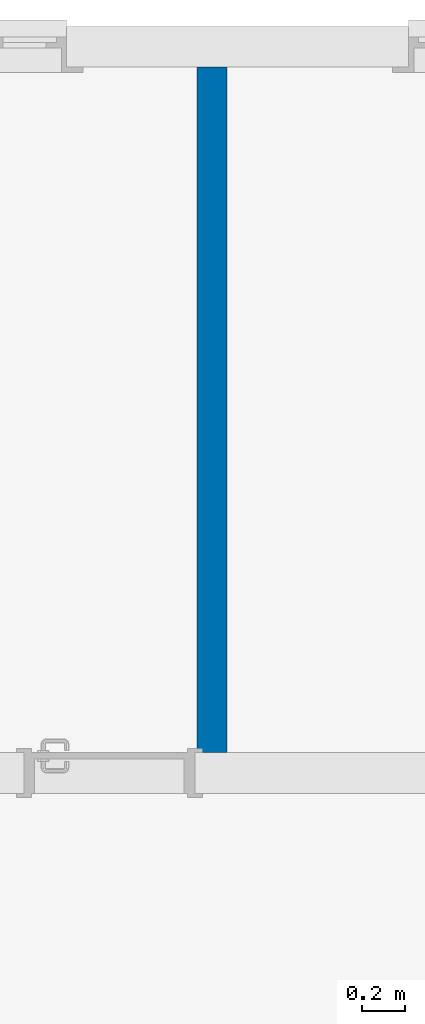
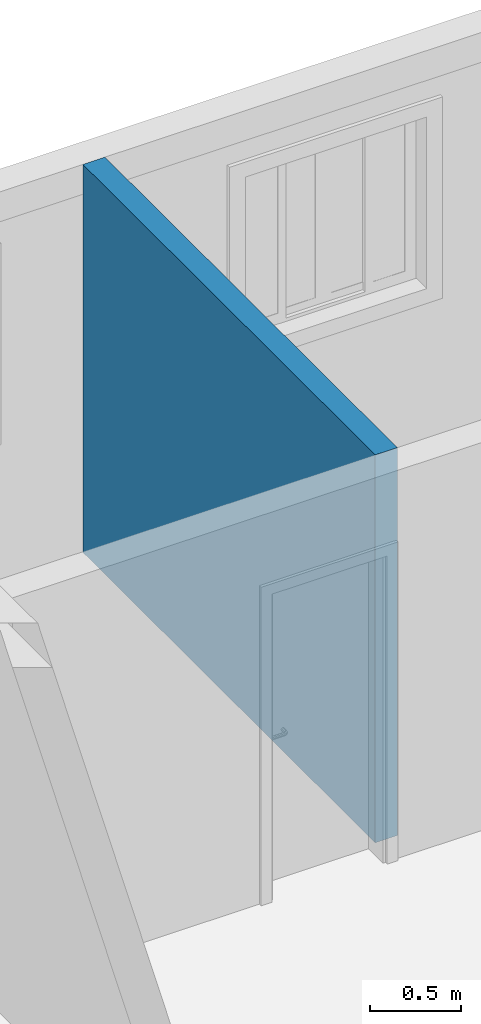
# One storey, part 40 of 47: 1 wall.
"""IFC2X3 building model written with IfcOpenShell, lengths in millimetres."""

from ifc_helpers import new_model, entity, si_unit, converted_unit, derived_unit, money_unit, direction, frame, origin_with_axes, place, context, subcontext, project, spatial, polyline, outline, extrude, material, layer, layer_set, layer_usage, type_object, element, save


model = new_model("IFC2X3")

# Units and contexts
model_context = context("Model", 3, precision=0.01, world=origin_with_axes(), true_north=direction((0.0, 1.0)))
body_context = subcontext(model_context, "Body", "Model", "MODEL_VIEW")
ifc_project = project(units=[si_unit("LENGTHUNIT", "METRE", prefix="MILLI"), si_unit("AREAUNIT", "SQUARE_METRE"), si_unit("VOLUMEUNIT", "CUBIC_METRE"), converted_unit("PLANEANGLEUNIT", "DEGREE", entity("IfcPlaneAngleMeasure", 0.0174532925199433), si_unit("PLANEANGLEUNIT", "RADIAN"), dimensions=[0, 0, 0, 0, 0, 0, 0]), money_unit("USD"), converted_unit("TIMEUNIT", "Year", entity("IfcTimeMeasure", 31557600.0), si_unit("TIMEUNIT", "SECOND"), dimensions=[0, 0, 1, 0, 0, 0, 0]), si_unit("MASSUNIT", "GRAM", prefix="KILO"), si_unit("THERMODYNAMICTEMPERATUREUNIT", "DEGREE_CELSIUS"), si_unit("LUMINOUSINTENSITYUNIT", "LUMEN"), si_unit("ENERGYUNIT", "JOULE", prefix="MEGA"), derived_unit("THERMALCONDUCTANCEUNIT", [(si_unit("POWERUNIT", "WATT"), 1), (si_unit("LENGTHUNIT", "METRE"), -1), (si_unit("THERMODYNAMICTEMPERATUREUNIT", "KELVIN"), -1)]), derived_unit("SPECIFICHEATCAPACITYUNIT", [(si_unit("ENERGYUNIT", "JOULE"), 1), (si_unit("MASSUNIT", "GRAM", prefix="KILO"), -1), (si_unit("THERMODYNAMICTEMPERATUREUNIT", "KELVIN"), -1)]), derived_unit("MASSDENSITYUNIT", [(si_unit("MASSUNIT", "GRAM", prefix="KILO"), 1), (si_unit("VOLUMEUNIT", "CUBIC_METRE"), -1)])], contexts=[model_context])

# Site, building, storey
site_placement = place(None, origin_with_axes())
site = spatial("IfcSite", under=ifc_project, at=site_placement, Name="Local", CompositionType="ELEMENT")
building_placement = place(site_placement, origin_with_axes())
building = spatial("IfcBuilding", under=site, at=building_placement, Name="Construção", CompositionType="ELEMENT")
storey_placement = place(building_placement, origin_with_axes())
storey = spatial("IfcBuildingStorey", under=building, at=storey_placement, Name="Pavimento Tipo", CompositionType="ELEMENT", Elevation=0.0)

# Wall
ifc_material = material(Name="Concreto")
ifc_layer = layer(ifc_material, 140.0, ventilated="UNKNOWN")
ifc_layer_set = layer_set([ifc_layer], Name="Concreto 140")
ifc_layer_usage = layer_usage(ifc_layer_set, "AXIS2", "NEGATIVE", 0.0)
wall_type = type_object("IfcWallType", Name="Concreto 140", PredefinedType="NOTDEFINED")
wall_placement = place(storey_placement, frame((3452.566997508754, 15596.98141771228, 0.0), z_axis=(0.0, 0.0, 1.0), x_axis=(0.0, 1.0, 0.0)))
element("IfcWallStandardCase", 1, at=wall_placement, inside=storey, type_object=wall_type, material=ifc_layer_usage, Name="Apartamento 1 - Parede-085", context=body_context, shape_type="SweptSolid", body=[
    extrude(outline(polyline([(189.9999999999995, -140.0000000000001), (3399.999999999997, -140.0000000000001), (3399.999999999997, 0.0), (189.9999999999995, 0.0), (189.9999999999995, -140.0000000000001)])), origin_with_axes(), (0.0, 0.0, 1.0), 2600.0),
])

save(model, "model.ifc")
